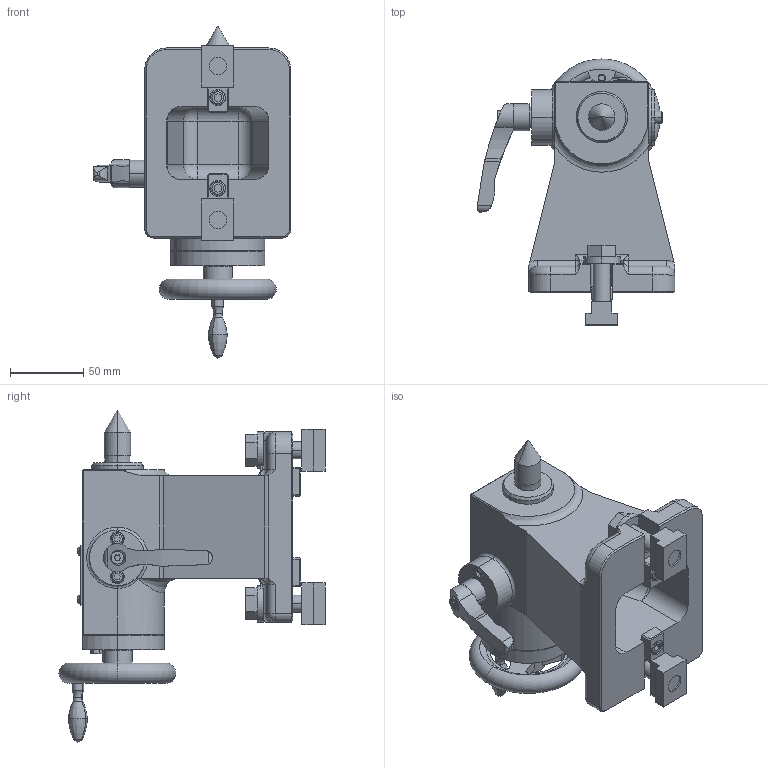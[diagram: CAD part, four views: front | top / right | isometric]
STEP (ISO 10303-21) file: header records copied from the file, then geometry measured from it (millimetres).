
FILE_DESCRIPTION (( 'STEP AP214' ), '1' );
FILE_NAME ('【掲載用】MR120RN.STEP', '2022-01-19T02:39:40', ( '' ), ( '' ), 'SwSTEP 2.0', 'SolidWorks 2020', '' );
FILE_SCHEMA (( 'AUTOMOTIVE_DESIGN' ));
Length unit declared in the file: millimetre
Products named in the file (14): SM-5; ガイドブロック(61M4198752); 【掲載用】MR120RN; カバー(61E4407170)RS100LS; ボデー(61E248003)MR120RN; ハンドル PAD; クランプレバ－ FKR8×15-SV イマオ; センタソケット(61E3654831)MR160RS001; ブラケット(61E4407131)RS100LS; MR120RNホンタイ; ネームプレート(61E4736691); CLAMPING PARTS(61E434366)結合; F-80-1; クランププレート(61E4407141)RS100LS
Assembly tree (15 placements, depth 3):
  【掲載用】MR120RN
    MR120RNホンタイ
      ボデー(61E248003)MR120RN
      ガイドブロック(61M4198752)  x2
      ブラケット(61E4407131)RS100LS
      クランププレート(61E4407141)RS100LS
      クランプレバ－ FKR8×15-SV イマオ
      カバー(61E4407170)RS100LS
      センタソケット(61E3654831)MR160RS001
      ネームプレート(61E4736691)
    CLAMPING PARTS(61E434366)結合  x2
    ハンドル PAD
      F-80-1
      SM-5
Bounding box: 135.28 x 182 x 227 mm (x, y, z)
Volume: 901565.6 mm3; surface area: 152935.1 mm2
Topology: 13 solids, 13 shells, 2000 faces, 5513 edges, 3608 vertices
Faces by surface type: plane 1648, cylinder 218, cone 51, bspline 37, torus 36, sphere 10
Entity records: 65777 total; most frequent: CARTESIAN_POINT 14708, ORIENTED_EDGE 10694, DIRECTION 9520, EDGE_CURVE 5347, VECTOR 4706, LINE 4706, VERTEX_POINT 3510, AXIS2_PLACEMENT_3D 2407
